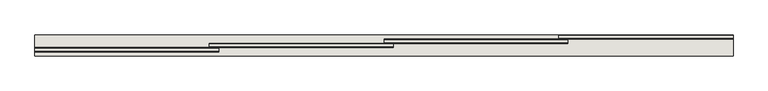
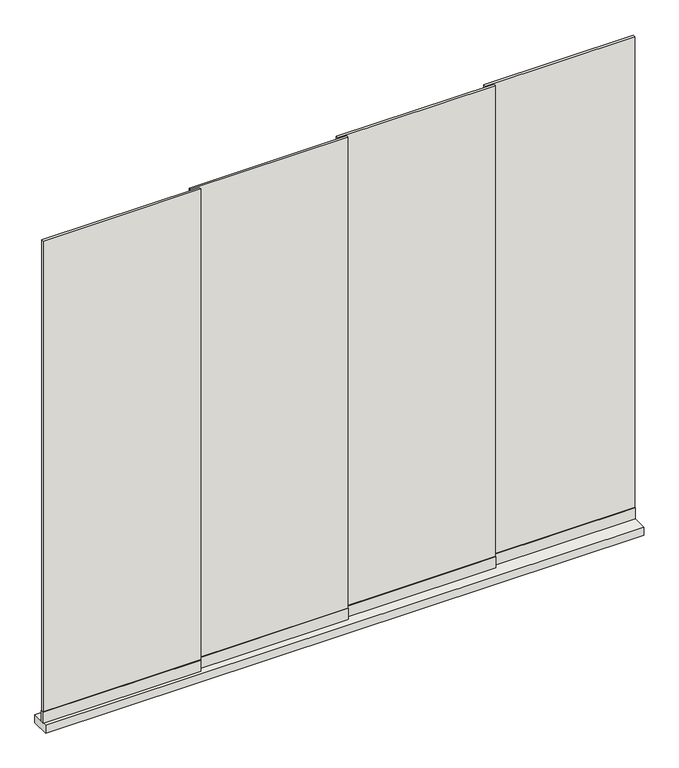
"""IFC4 building model written with IfcOpenShell, lengths in millimetres: wall geometry, Renson_Amani_Glass_Sliding_Panel : Renson_Amani_Glass_Sliding_Panel."""

from ifc_helpers import new_model, si_unit, frame, origin, origin_with_axes, place, context, project, spatial, polyline, outline, extrude, source, transform, mapped, element, save


def wall_7cdae695(model_context):
    return source(origin(), model_context, "Body", "SweptSolid", [
        extrude(outline(polyline([(-1165.0, -48.0), (-1165.0, -64.0), (-1850.0, -64.0), (-1850.0, -48.0), (-1165.0, -48.0)])), frame((0.0, 0.0, 35.0), z_axis=(0.0, 0.0, 1.0), x_axis=(1.0, 0.0, 0.0)), (0.0, 0.0, 1.0), 51.0),
        extrude(outline(polyline([(750.0, 0.0), (750.0, -80.0), (-1850.0, -80.0), (-1850.0, 0.0), (750.0, 0.0)])), origin_with_axes(), (0.0, 0.0, 1.0), 35.0),
        extrude(outline(polyline([(750.0, -3.0), (750.0, -13.0), (100.0, -13.0), (100.0, -3.0), (750.0, -3.0)])), frame((0.0, 0.0, 86.0), z_axis=(0.0, 0.0, 1.0), x_axis=(1.0, 0.0, 0.0)), (0.0, 0.0, 1.0), 2164.0),
        extrude(outline(polyline([(135.0, -19.0), (135.0, -29.0), (-550.0, -29.0), (-550.0, -19.0), (135.0, -19.0)])), frame((0.0, 0.0, 86.0), z_axis=(0.0, 0.0, 1.0), x_axis=(1.0, 0.0, 0.0)), (0.0, 0.0, 1.0), 2164.0),
        extrude(outline(polyline([(-1165.0, -51.0), (-1165.0, -61.0), (-1850.0, -61.0), (-1850.0, -51.0), (-1165.0, -51.0)])), frame((0.0, 0.0, 86.0), z_axis=(0.0, 0.0, 1.0), x_axis=(1.0, 0.0, 0.0)), (0.0, 0.0, 1.0), 2164.0),
        extrude(outline(polyline([(-515.0, -35.0), (-515.0, -45.0), (-1200.0, -45.0), (-1200.0, -35.0), (-515.0, -35.0)])), frame((0.0, 0.0, 86.0), z_axis=(0.0, 0.0, 1.0), x_axis=(1.0, 0.0, 0.0)), (0.0, 0.0, 1.0), 2164.0),
        extrude(outline(polyline([(750.0, 0.0), (750.0, -16.0), (100.0, -16.0), (100.0, 0.0), (750.0, 0.0)])), frame((0.0, 0.0, 35.0), z_axis=(0.0, 0.0, 1.0), x_axis=(1.0, 0.0, 0.0)), (0.0, 0.0, 1.0), 51.0),
        extrude(outline(polyline([(135.0, -16.0), (135.0, -32.0), (-550.0, -32.0), (-550.0, -16.0), (135.0, -16.0)])), frame((0.0, 0.0, 35.0), z_axis=(0.0, 0.0, 1.0), x_axis=(1.0, 0.0, 0.0)), (0.0, 0.0, 1.0), 51.0),
        extrude(outline(polyline([(-515.0, -32.0), (-515.0, -48.0), (-1200.0, -48.0), (-1200.0, -32.0), (-515.0, -32.0)])), frame((0.0, 0.0, 35.0), z_axis=(0.0, 0.0, 1.0), x_axis=(1.0, 0.0, 0.0)), (0.0, 0.0, 1.0), 51.0),
    ])


if __name__ == "__main__":
    model = new_model("IFC4")
    model_context = context("Model", 3, world=origin())
    ifc_project = project(units=[si_unit("LENGTHUNIT", "METRE", prefix="MILLI")], contexts=[model_context])
    site = spatial("IfcSite", under=ifc_project)
    building = spatial("IfcBuilding", under=site)
    placement = place(None, origin())
    wall_shape = wall_7cdae695(model_context)
    element("IfcWall", 1, ObjectType="Renson_Amani_Glass_Sliding_Panel : Renson_Amani_Glass_Sliding_Panel", at=placement, inside=building, context=model_context, shape_type="MappedRepresentation", body=[
        mapped(wall_shape, transform((0.0, 0.0, 0.0), x_axis=(1.0, 0.0, 0.0), y_axis=(0.0, 1.0, 0.0), z_axis=(0.0, 0.0, 1.0))),
    ])
    save(model, "model.ifc")
